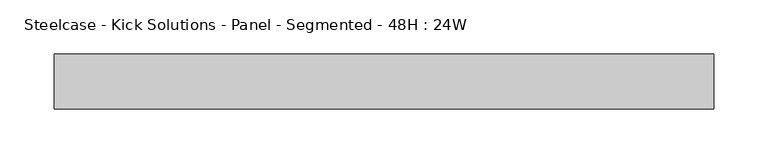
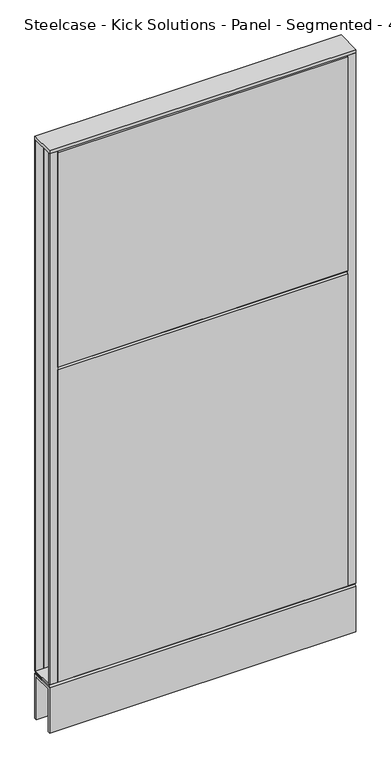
"""IFC4 building model written with IfcOpenShell, lengths in millimetres: furniture geometry, Steelcase - Kick Solutions - Panel - Segmented - 48H : 24W."""

from ifc_helpers import new_model, si_unit, frame, origin, place, context, project, spatial, polyline, outline, extrude, source, transform, mapped, element, save


def steelcase_kick_solutions_panel_segmented_48h_24w_fcf5a883(model_context):
    return source(origin(), model_context, "Body", "SweptSolid", [
        extrude(outline(polyline([(1.5e-06, 101.600003), (-3.175, 101.600003), (-3.175, 1219.2), (1.5e-06, 1216.1188448), (1.5e-06, 101.600003)])), frame((15.8749996, 0.0, 0.0), z_axis=(1.0, 0.0, 0.0), x_axis=(0.0, 1.0, 0.0)), (0.0, 0.0, 1.0), 577.8500008),
        extrude(outline(polyline([(-50.8000015, 765.0811552), (-50.8000015, 1216.1188448), (-47.625, 1219.2), (-47.625, 762.0), (-50.8000015, 765.0811552)])), frame((15.8749996, 0.0, 0.0), z_axis=(1.0, 0.0, 0.0), x_axis=(0.0, 1.0, 0.0)), (0.0, 0.0, 1.0), 577.8500008),
        extrude(outline(polyline([(-50.8000015, 101.600003), (-50.8000015, 758.9188448), (-47.625, 762.0), (-47.625, 101.600003), (-50.8000015, 101.600003)])), frame((15.8749996, 0.0, 0.0), z_axis=(1.0, 0.0, 0.0), x_axis=(0.0, 1.0, 0.0)), (0.0, 0.0, 1.0), 577.8500008),
        extrude(outline(polyline([(609.6, -3.1750015), (593.7250004, -3.1750015), (593.7250004, 0.0), (609.6, 0.0), (609.6, -3.1750015)])), frame((0.0, 0.0, 101.7169049), z_axis=(0.0, 0.0, 1.0), x_axis=(1.0, 0.0, 0.0)), (0.0, 0.0, 1.0), 1117.599997),
        extrude(outline(polyline([(15.8749996, -50.8000015), (0.0, -50.8000015), (0.0, -47.625), (15.8749996, -47.625), (15.8749996, -50.8000015)])), frame((0.0, 0.0, 101.7169049), z_axis=(0.0, 0.0, 1.0), x_axis=(1.0, 0.0, 0.0)), (0.0, 0.0, 1.0), 1117.599997),
        extrude(outline(polyline([(-50.7995075, 101.7169049), (-0.000494, 101.7169049), (-3.0583512, 98.5421458), (-47.7416503, 98.5421458), (-50.7995075, 101.7169049)])), frame((0.0, 0.0, 0.0), z_axis=(1.0, 0.0, 0.0), x_axis=(0.0, 1.0, 0.0)), (0.0, 0.0, 1.0), 609.6),
        extrude(outline(polyline([(609.6, 0.0), (609.6, -50.8000015), (0.0, -50.8000015), (0.0, 0.0), (609.6, 0.0)])), frame((0.0, 0.0, 1219.3169018), z_axis=(0.0, 0.0, 1.0), x_axis=(1.0, 0.0, 0.0)), (0.0, 0.0, 1.0), 6.35),
        extrude(outline(polyline([(15.8749996, -3.1750015), (0.0, -3.1750015), (0.0, 0.0), (15.8749996, 0.0), (15.8749996, -3.1750015)])), frame((0.0, 0.0, 101.7169049), z_axis=(0.0, 0.0, 1.0), x_axis=(1.0, 0.0, 0.0)), (0.0, 0.0, 1.0), 1117.599997),
        extrude(outline(polyline([(609.6, -50.8000015), (593.7250004, -50.8000015), (593.7250004, -47.625), (609.6, -47.625), (609.6, -50.8000015)])), frame((0.0, 0.0, 101.7169049), z_axis=(0.0, 0.0, 1.0), x_axis=(1.0, 0.0, 0.0)), (0.0, 0.0, 1.0), 1117.599997),
        extrude(outline(polyline([(-50.8000015, 95.3668927), (-47.6247484, 98.5421458), (-3.1752531, 98.5421458), (0.0, 95.3668927), (-50.8000015, 95.3668927)])), frame((0.0, 0.0, 0.0), z_axis=(1.0, 0.0, 0.0), x_axis=(0.0, 1.0, 0.0)), (0.0, 0.0, 1.0), 609.6),
        extrude(outline(polyline([(0.0, 0.0), (-5.08, 0.0), (-5.08, 90.2869018), (-45.7200015, 90.2869018), (-45.7200015, 0.0), (-50.8000015, 0.0), (-50.8000015, 95.3669018), (0.0, 95.3669018), (0.0, 0.0)])), frame((0.0, 0.0, 0.0), z_axis=(1.0, 0.0, 0.0), x_axis=(0.0, 1.0, 0.0)), (0.0, 0.0, 1.0), 609.6),
    ])


if __name__ == "__main__":
    model = new_model("IFC4")
    model_context = context("Model", 3, world=origin())
    ifc_project = project(units=[si_unit("LENGTHUNIT", "METRE", prefix="MILLI")], contexts=[model_context])
    site = spatial("IfcSite", under=ifc_project)
    building = spatial("IfcBuilding", under=site)
    placement = place(None, origin())
    steelcase_kick_solutions_panel_segmented_48h_24w_shape = steelcase_kick_solutions_panel_segmented_48h_24w_fcf5a883(model_context)
    element("IfcFurniture", 1, ObjectType="Steelcase - Kick Solutions - Panel - Segmented - 48H : 24W", at=placement, inside=building, context=model_context, shape_type="MappedRepresentation", body=[
        mapped(steelcase_kick_solutions_panel_segmented_48h_24w_shape, transform((0.0, 0.0, 0.0), x_axis=(1.0, 0.0, 0.0), y_axis=(0.0, 1.0, 0.0), z_axis=(0.0, 0.0, 1.0))),
    ])
    save(model, "model.ifc")
